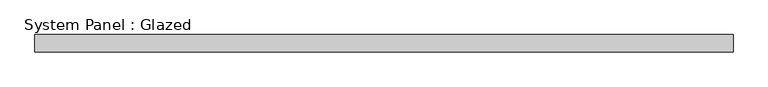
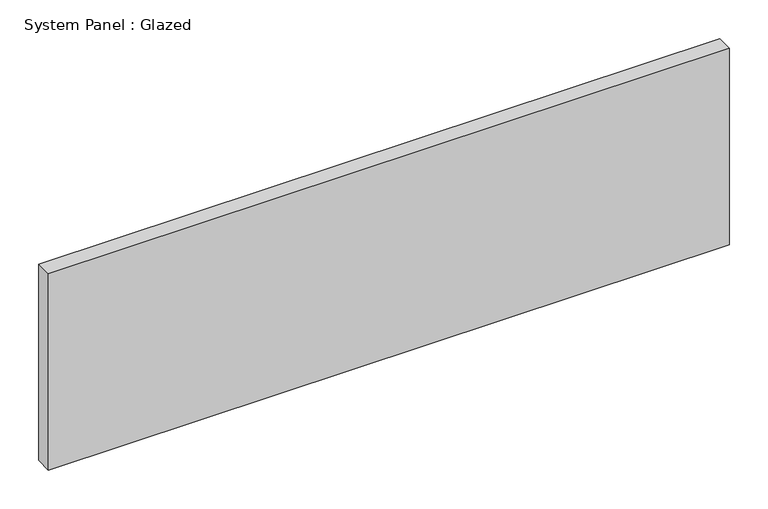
"""IFC4 building model written with IfcOpenShell, lengths in millimetres: plate geometry, System Panel : Glazed."""

from ifc_helpers import new_model, si_unit, origin, origin_with_axes, place, context, project, spatial, polyline, outline, extrude, source, transform, mapped, element, save


def system_panel_glazed_15330518(model_context):
    return source(origin(), model_context, "Body", "SweptSolid", [
        extrude(outline(polyline([(510.2678571, 19.05), (-510.2678571, 19.05), (-510.2678571, 44.45), (510.2678571, 44.45), (510.2678571, 19.05)])), origin_with_axes(), (0.0, 0.0, 1.0), 310.8709562),
    ])


if __name__ == "__main__":
    model = new_model("IFC4")
    model_context = context("Model", 3, world=origin())
    ifc_project = project(units=[si_unit("LENGTHUNIT", "METRE", prefix="MILLI")], contexts=[model_context])
    site = spatial("IfcSite", under=ifc_project)
    building = spatial("IfcBuilding", under=site)
    placement = place(None, origin())
    system_panel_glazed_shape = system_panel_glazed_15330518(model_context)
    element("IfcPlate", 1, ObjectType="System Panel : Glazed", at=placement, inside=building, context=model_context, shape_type="MappedRepresentation", body=[
        mapped(system_panel_glazed_shape, transform((0.0, 0.0, 0.0), x_axis=(1.0, 0.0, 0.0), y_axis=(0.0, 1.0, 0.0), z_axis=(0.0, 0.0, 1.0))),
    ])
    save(model, "model.ifc")
